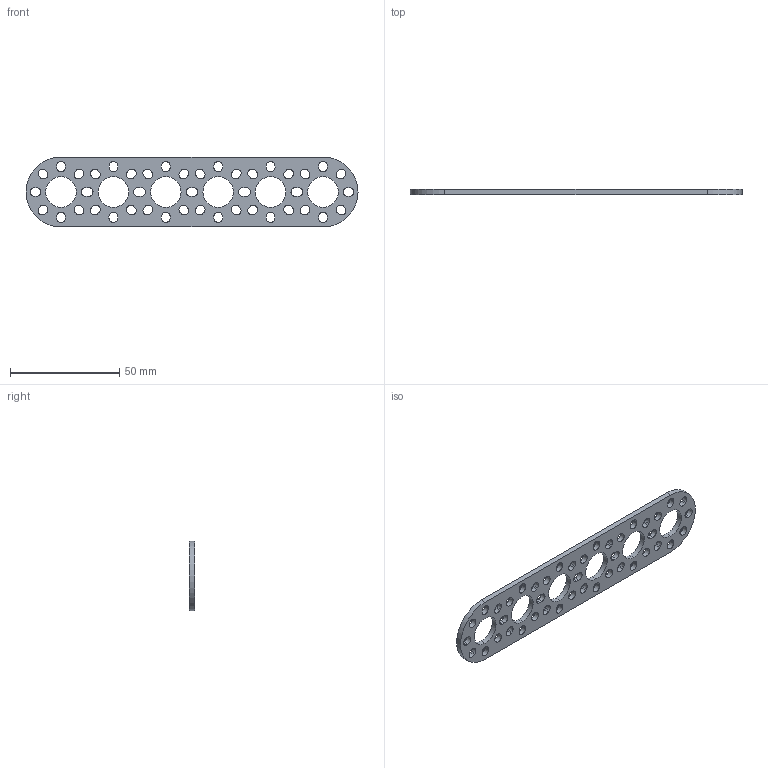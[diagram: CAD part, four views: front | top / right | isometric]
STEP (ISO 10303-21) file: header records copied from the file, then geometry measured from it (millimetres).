
FILE_DESCRIPTION (( 'STEP AP203' ), '1' );
FILE_NAME ('1105-0006-0152.STEP', '2017-04-11T19:17:44', ( '' ), ( '' ), 'SwSTEP 2.0', 'SolidWorks 2016', '' );
FILE_SCHEMA (( 'CONFIG_CONTROL_DESIGN' ));
Length unit declared in the file: millimetre
Products named in the file (1): 1105-0006-0152
Bounding box: 152 x 2.5 x 32 mm (x, y, z)
Volume: 7621.2 mm3; surface area: 9123.7 mm2
Topology: 1 solids, 1 shells, 226 faces, 672 edges, 448 vertices
Faces by surface type: cylinder 136, plane 90
Entity records: 7961 total; most frequent: DIRECTION 1398, CARTESIAN_POINT 1347, ORIENTED_EDGE 1344, EDGE_CURVE 672, AXIS2_PLACEMENT_3D 499, VERTEX_POINT 448, VECTOR 400, LINE 400
